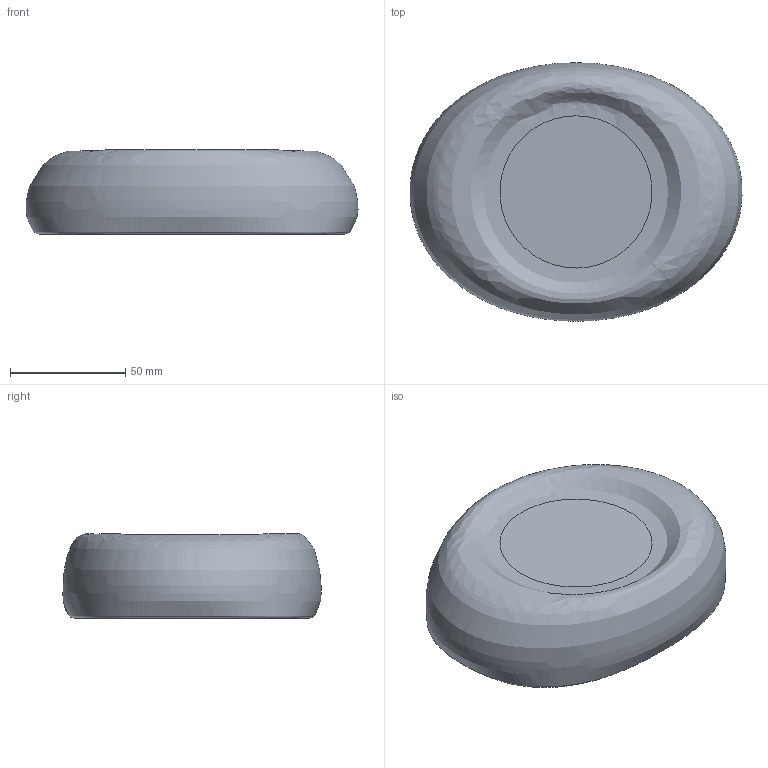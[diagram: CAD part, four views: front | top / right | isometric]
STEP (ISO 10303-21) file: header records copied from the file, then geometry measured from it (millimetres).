
FILE_DESCRIPTION(('Open CASCADE Model'),'2;1');
FILE_NAME('Open CASCADE Shape Model','2026-11-11T21:48:16',('Author'),( 'Open CASCADE'),'Open CASCADE STEP processor 8.0','build123d', 'Unknown');
FILE_SCHEMA(('AUTOMOTIVE_DESIGN { 1 0 10303 214 1 1 1 1 }'));
Length unit declared in the file: millimetre
Products named in the file (1): SOLID
Bounding box: 143.94 x 111.98 x 36.51 mm (x, y, z)
Volume: 405163.4 mm3; surface area: 36476.2 mm2
Topology: 1 solids, 1 shells, 3 faces, 3 edges, 2 vertices
Faces by surface type: plane 2, bspline 1
Entity records: 9757 total; most frequent: CARTESIAN_POINT 9681, DIRECTION 10, ORIENTED_EDGE 6, PCURVE 6, DEFINITIONAL_REPRESENTATION 6, B_SPLINE_CURVE_WITH_KNOTS 4, LINE 4, VECTOR 4
